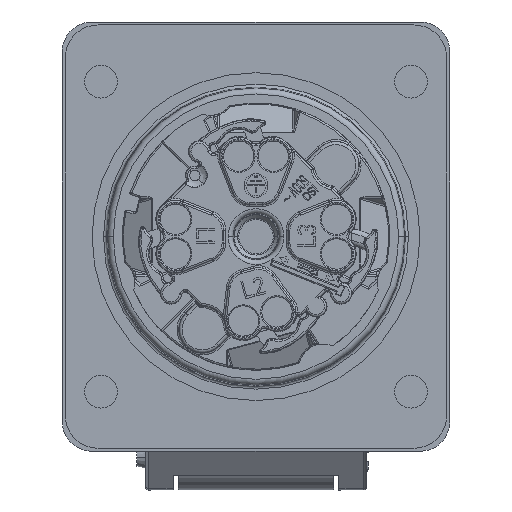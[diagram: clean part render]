
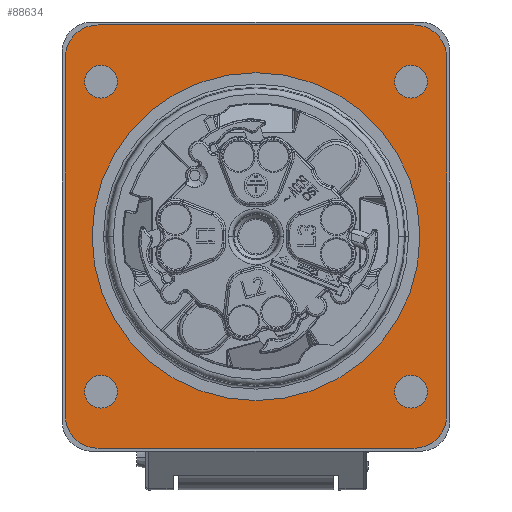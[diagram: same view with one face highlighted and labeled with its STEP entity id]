
A CAD part, front view. The second image highlights one B-rep face of the part: STEP entity #88634.
In plain terms, the highlighted planar face has unit normal (0, -1, 0).
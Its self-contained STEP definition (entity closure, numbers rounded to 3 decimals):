
#22178=CARTESIAN_POINT('',(26.5,-1.8,30.));
#22179=DIRECTION('',(0.,1.,0.));
#22180=DIRECTION('',(0.,0.,1.));
#22181=AXIS2_PLACEMENT_3D('',#22178,#22179,#22180);
#22186=DIRECTION('',(0.,0.,-1.));
#22187=VECTOR('',#22186,60.);
#22188=CARTESIAN_POINT('',(32.,-1.8,30.));
#22189=LINE('9184',#22188,#22187);
#22193=CARTESIAN_POINT('',(26.5,-1.8,-30.));
#22194=DIRECTION('',(0.,1.,0.));
#22195=DIRECTION('',(1.,0.,0.));
#22196=AXIS2_PLACEMENT_3D('',#22193,#22194,#22195);
#22201=DIRECTION('',(-1.,0.,0.));
#22202=VECTOR('',#22201,53.);
#22203=CARTESIAN_POINT('',(26.5,-1.8,-35.5));
#22204=LINE('9186',#22203,#22202);
#22208=CARTESIAN_POINT('',(-26.5,-1.8,-30.));
#22209=DIRECTION('',(0.,1.,0.));
#22210=DIRECTION('',(0.,0.,-1.));
#22211=AXIS2_PLACEMENT_3D('',#22208,#22209,#22210);
#22216=DIRECTION('',(0.,0.,1.));
#22217=VECTOR('',#22216,60.);
#22218=CARTESIAN_POINT('',(-32.,-1.8,-30.));
#22219=LINE('9188',#22218,#22217);
#22223=CARTESIAN_POINT('',(-26.5,-1.8,30.));
#22224=DIRECTION('',(0.,1.,0.));
#22225=DIRECTION('',(-1.,0.,0.));
#22226=AXIS2_PLACEMENT_3D('',#22223,#22224,#22225);
#22231=DIRECTION('',(1.,0.,0.));
#22232=VECTOR('',#22231,53.);
#22233=CARTESIAN_POINT('',(-26.5,-1.8,35.5));
#22234=LINE('9190',#22233,#22232);
#22238=CARTESIAN_POINT('',(0.,-1.8,0.));
#22239=DIRECTION('',(0.,-1.,0.));
#22240=DIRECTION('',(-1.,0.,0.));
#22241=AXIS2_PLACEMENT_3D('',#22238,#22239,#22240);
#22246=CARTESIAN_POINT('',(0.,-1.8,0.));
#22247=DIRECTION('',(0.,-1.,0.));
#22248=DIRECTION('',(1.,0.,0.));
#22249=AXIS2_PLACEMENT_3D('',#22246,#22247,#22248);
#22254=CARTESIAN_POINT('',(26.,-1.8,26.));
#22255=DIRECTION('',(0.,-1.,0.));
#22256=DIRECTION('',(-1.,0.,0.));
#22257=AXIS2_PLACEMENT_3D('',#22254,#22255,#22256);
#22262=CARTESIAN_POINT('',(26.,-1.8,26.));
#22263=DIRECTION('',(0.,-1.,0.));
#22264=DIRECTION('',(1.,0.,0.));
#22265=AXIS2_PLACEMENT_3D('',#22262,#22263,#22264);
#22270=CARTESIAN_POINT('',(-26.,-1.8,26.));
#22271=DIRECTION('',(0.,-1.,0.));
#22272=DIRECTION('',(-1.,0.,0.));
#22273=AXIS2_PLACEMENT_3D('',#22270,#22271,#22272);
#22278=CARTESIAN_POINT('',(-26.,-1.8,26.));
#22279=DIRECTION('',(0.,-1.,0.));
#22280=DIRECTION('',(1.,0.,0.));
#22281=AXIS2_PLACEMENT_3D('',#22278,#22279,#22280);
#22286=CARTESIAN_POINT('',(-26.,-1.8,-26.));
#22287=DIRECTION('',(0.,-1.,0.));
#22288=DIRECTION('',(-1.,0.,0.));
#22289=AXIS2_PLACEMENT_3D('',#22286,#22287,#22288);
#22294=CARTESIAN_POINT('',(-26.,-1.8,-26.));
#22295=DIRECTION('',(0.,-1.,0.));
#22296=DIRECTION('',(1.,0.,0.));
#22297=AXIS2_PLACEMENT_3D('',#22294,#22295,#22296);
#22302=CARTESIAN_POINT('',(26.,-1.8,-26.));
#22303=DIRECTION('',(0.,-1.,0.));
#22304=DIRECTION('',(-1.,0.,0.));
#22305=AXIS2_PLACEMENT_3D('',#22302,#22303,#22304);
#22310=CARTESIAN_POINT('',(26.,-1.8,-26.));
#22311=DIRECTION('',(0.,-1.,0.));
#22312=DIRECTION('',(1.,0.,0.));
#22313=AXIS2_PLACEMENT_3D('',#22310,#22311,#22312);
#58570=CARTESIAN_POINT('',(-27.5,-1.8,0.));
#58571=CARTESIAN_POINT('',(27.5,-1.8,0.));
#58572=VERTEX_POINT('',#58570);
#58573=VERTEX_POINT('',#58571);
#58574=CARTESIAN_POINT('',(23.25,-1.8,26.));
#58575=CARTESIAN_POINT('',(28.75,-1.8,26.));
#58576=VERTEX_POINT('',#58574);
#58577=VERTEX_POINT('',#58575);
#58578=CARTESIAN_POINT('',(-28.75,-1.8,26.));
#58579=CARTESIAN_POINT('',(-23.25,-1.8,26.));
#58580=VERTEX_POINT('',#58578);
#58581=VERTEX_POINT('',#58579);
#58582=CARTESIAN_POINT('',(-28.75,-1.8,-26.));
#58583=CARTESIAN_POINT('',(-23.25,-1.8,-26.));
#58584=VERTEX_POINT('',#58582);
#58585=VERTEX_POINT('',#58583);
#58586=CARTESIAN_POINT('',(23.25,-1.8,-26.));
#58587=CARTESIAN_POINT('',(28.75,-1.8,-26.));
#58588=VERTEX_POINT('',#58586);
#58589=VERTEX_POINT('',#58587);
#58590=CARTESIAN_POINT('',(26.5,-1.8,35.5));
#58591=CARTESIAN_POINT('',(32.,-1.8,30.));
#58592=VERTEX_POINT('',#58590);
#58593=VERTEX_POINT('',#58591);
#58594=CARTESIAN_POINT('',(32.,-1.8,-30.));
#58595=VERTEX_POINT('',#58594);
#58596=CARTESIAN_POINT('',(26.5,-1.8,-35.5));
#58597=VERTEX_POINT('',#58596);
#58598=CARTESIAN_POINT('',(-26.5,-1.8,-35.5));
#58599=VERTEX_POINT('',#58598);
#58600=CARTESIAN_POINT('',(-32.,-1.8,-30.));
#58601=VERTEX_POINT('',#58600);
#58602=CARTESIAN_POINT('',(-32.,-1.8,30.));
#58603=VERTEX_POINT('',#58602);
#58604=CARTESIAN_POINT('',(-26.5,-1.8,35.5));
#58605=VERTEX_POINT('',#58604);
#88589=CARTESIAN_POINT('',(0.,-1.8,0.));
#88590=DIRECTION('',(0.,1.,0.));
#88591=DIRECTION('',(-1.,0.,0.));
#88592=AXIS2_PLACEMENT_3D('',#88589,#88590,#88591);
#88593=PLANE('2647',#88592);
#88594=ORIENTED_EDGE('9183',*,*,#88389,.T.);
#88595=ORIENTED_EDGE('9184',*,*,#88416,.T.);
#88596=ORIENTED_EDGE('9185',*,*,#88442,.T.);
#88597=ORIENTED_EDGE('9186',*,*,#88468,.T.);
#88598=ORIENTED_EDGE('9187',*,*,#88494,.T.);
#88599=ORIENTED_EDGE('9188',*,*,#88520,.T.);
#88600=ORIENTED_EDGE('9189',*,*,#88546,.T.);
#88601=ORIENTED_EDGE('9190',*,*,#88571,.T.);
#88602=EDGE_LOOP('2647',(#88594,#88595,#88596,#88597,#88598,#88599,#88600,
#88601));
#88603=FACE_OUTER_BOUND('2647',#88602,.F.);
#88605=ORIENTED_EDGE('9173',*,*,#88604,.T.);
#88607=ORIENTED_EDGE('9174',*,*,#88606,.T.);
#88608=EDGE_LOOP('2647',(#88605,#88607));
#88609=FACE_BOUND('2647',#88608,.F.);
#88611=ORIENTED_EDGE('9175',*,*,#88610,.T.);
#88613=ORIENTED_EDGE('9176',*,*,#88612,.T.);
#88614=EDGE_LOOP('2647',(#88611,#88613));
#88615=FACE_BOUND('2647',#88614,.F.);
#88617=ORIENTED_EDGE('9177',*,*,#88616,.T.);
#88619=ORIENTED_EDGE('9178',*,*,#88618,.T.);
#88620=EDGE_LOOP('2647',(#88617,#88619));
#88621=FACE_BOUND('2647',#88620,.F.);
#88623=ORIENTED_EDGE('9179',*,*,#88622,.T.);
#88625=ORIENTED_EDGE('9180',*,*,#88624,.T.);
#88626=EDGE_LOOP('2647',(#88623,#88625));
#88627=FACE_BOUND('2647',#88626,.F.);
#88629=ORIENTED_EDGE('9181',*,*,#88628,.T.);
#88631=ORIENTED_EDGE('9182',*,*,#88630,.T.);
#88632=EDGE_LOOP('2647',(#88629,#88631));
#88633=FACE_BOUND('2647',#88632,.F.);
#22182=CIRCLE('9183',#22181,5.5);
#22197=CIRCLE('9185',#22196,5.5);
#22212=CIRCLE('9187',#22211,5.5);
#22227=CIRCLE('9189',#22226,5.5);
#22242=CIRCLE('9173',#22241,27.5);
#22250=CIRCLE('9174',#22249,27.5);
#22258=CIRCLE('9175',#22257,2.75);
#22266=CIRCLE('9176',#22265,2.75);
#22274=CIRCLE('9177',#22273,2.75);
#22282=CIRCLE('9178',#22281,2.75);
#22290=CIRCLE('9179',#22289,2.75);
#22298=CIRCLE('9180',#22297,2.75);
#22306=CIRCLE('9181',#22305,2.75);
#22314=CIRCLE('9182',#22313,2.75);
#88389=EDGE_CURVE('9183',#58592,#58593,#22182,.T.);
#88416=EDGE_CURVE('9184',#58593,#58595,#22189,.T.);
#88442=EDGE_CURVE('9185',#58595,#58597,#22197,.T.);
#88468=EDGE_CURVE('9186',#58597,#58599,#22204,.T.);
#88494=EDGE_CURVE('9187',#58599,#58601,#22212,.T.);
#88520=EDGE_CURVE('9188',#58601,#58603,#22219,.T.);
#88546=EDGE_CURVE('9189',#58603,#58605,#22227,.T.);
#88571=EDGE_CURVE('9190',#58605,#58592,#22234,.T.);
#88604=EDGE_CURVE('9173',#58572,#58573,#22242,.T.);
#88606=EDGE_CURVE('9174',#58573,#58572,#22250,.T.);
#88610=EDGE_CURVE('9175',#58576,#58577,#22258,.T.);
#88612=EDGE_CURVE('9176',#58577,#58576,#22266,.T.);
#88616=EDGE_CURVE('9177',#58580,#58581,#22274,.T.);
#88618=EDGE_CURVE('9178',#58581,#58580,#22282,.T.);
#88622=EDGE_CURVE('9179',#58584,#58585,#22290,.T.);
#88624=EDGE_CURVE('9180',#58585,#58584,#22298,.T.);
#88628=EDGE_CURVE('9181',#58588,#58589,#22306,.T.);
#88630=EDGE_CURVE('9182',#58589,#58588,#22314,.T.);
#88634=ADVANCED_FACE('2647',(#88603,#88609,#88615,#88621,#88627,#88633),#88593,
.F.);
